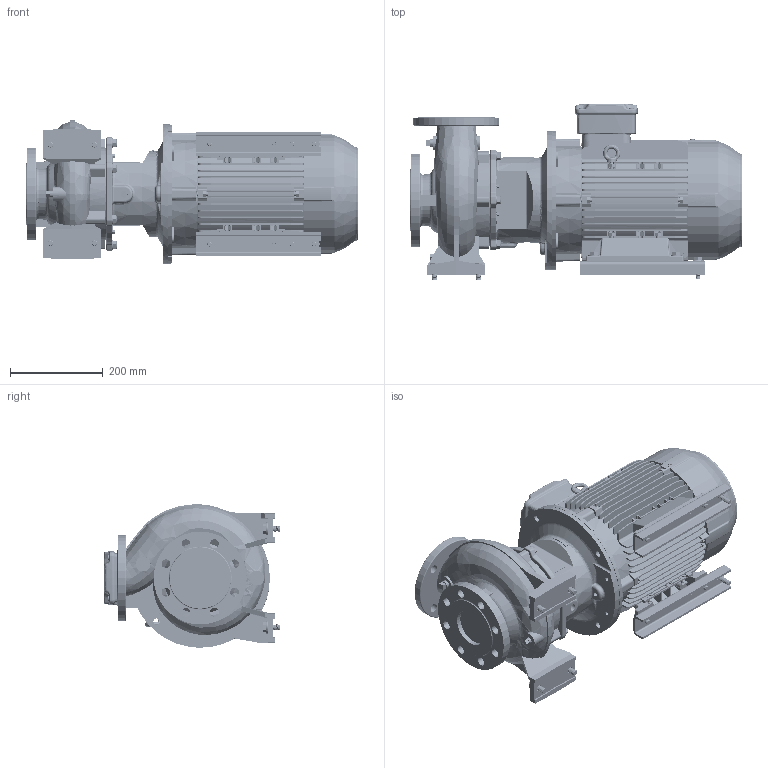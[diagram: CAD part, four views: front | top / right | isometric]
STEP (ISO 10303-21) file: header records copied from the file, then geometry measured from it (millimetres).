
FILE_DESCRIPTION (( 'STEP AP214' ), '1' );
FILE_NAME ('GSD2 65-125_9.2_(132M)_W21.STEP', '2026-07-09T05:47:26', ( '' ), ( '' ), 'SwSTEP 2.0', 'SolidWorks 2024', '' );
FILE_SCHEMA (( 'AUTOMOTIVE_DESIGN' ));
Length unit declared in the file: millimetre
Products named in the file (12): 65-125-132M_ﾃﾞﾌｫﾙﾄ; Parametric Flat Washer_M10; 140_178 x 28 - 271472025; Parametric Flat Washer_M12; 132M ALIE3_W21T_B35; GSD2  65-125_9.2_(132M)_W21; Parametric bolt_SFT-A257B; Parametric bolt_SFT-A299B; Parametric bolt and washer_SFT-A253B; Parametric bolt and washer_SFT-A275B; Parametric bolt_SFT-A253B; Parametric bolt and washer_SFT-A299B
Assembly tree (20 placements, depth 3):
  GSD2  65-125_9.2_(132M)_W21
    65-125-132M_ﾃﾞﾌｫﾙﾄ
    140_178 x 28 - 271472025  x2
    Parametric bolt and washer_SFT-A299B  x4
      Parametric bolt_SFT-A299B
      Parametric Flat Washer_M12
    Parametric bolt and washer_SFT-A253B  x4
      Parametric bolt_SFT-A253B
      Parametric Flat Washer_M10
    Parametric bolt and washer_SFT-A275B  x2
      Parametric bolt_SFT-A257B
      Parametric Flat Washer_M10
    132M ALIE3_W21T_B35
Bounding box: 714.8 x 380.5 x 308.73 mm (x, y, z)
Volume: 28866579.3 mm3; surface area: 1962096.8 mm2
Topology: 34 solids, 34 shells, 4948 faces, 12915 edges, 8344 vertices
Faces by surface type: plane 2879, cylinder 1245, torus 319, bspline 268, cone 205, sphere 32
Entity records: 183828 total; most frequent: CARTESIAN_POINT 75465, ORIENTED_EDGE 23482, DIRECTION 20903, EDGE_CURVE 11741, VECTOR 7745, LINE 7745, VERTEX_POINT 7596, AXIS2_PLACEMENT_3D 6579
